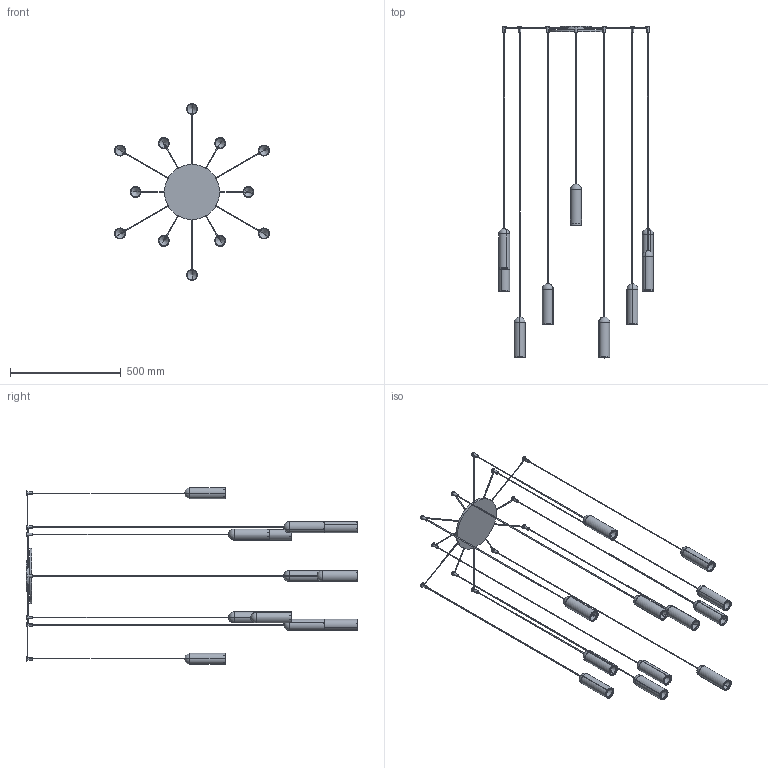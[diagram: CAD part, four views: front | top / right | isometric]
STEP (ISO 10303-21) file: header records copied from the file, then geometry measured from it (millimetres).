
FILE_DESCRIPTION (( 'STEP AP203' ), '1' );
FILE_NAME ('NAN12-00-NANUM 12 ROSONE CENTRALE.STEP', '2024-07-31T07:26:53', ( '' ), ( '' ), 'SwSTEP 2.0', 'SolidWorks 2022', '' );
FILE_SCHEMA (( 'CONFIG_CONTROL_DESIGN' ));
Length unit declared in the file: millimetre
Products named in the file (7): NAN12-00-NANUM 12 ROSONE CENTRALE; NANUM_LAMPADA SINGOLA_H=2100; NANUM_Rosone diam.250_Nanum 12<A macchina>; NANUM_LAMPADA SINGOLA_H=1500; NANUM_LAMPADA SINGOLA_H=1650; NANUM_LAMPADA SINGOLA_H=1800; NANUM_LAMPADA SINGOLA_H=1900
Assembly tree (13 placements, depth 2):
  NAN12-00-NANUM 12 ROSONE CENTRALE
    NANUM_Rosone diam.250_Nanum 12<A macchina>
    NANUM_LAMPADA SINGOLA_H=1900  x2
    NANUM_LAMPADA SINGOLA_H=1500  x3
    NANUM_LAMPADA SINGOLA_H=1800  x2
    NANUM_LAMPADA SINGOLA_H=1650  x3
    NANUM_LAMPADA SINGOLA_H=2100  x2
Bounding box: 699.52 x 1500 x 800 mm (x, y, z)
Volume: 1799093.7 mm3; surface area: 1053755.3 mm2
Topology: 37 solids, 37 shells, 456 faces, 990 edges, 561 vertices
Faces by surface type: cylinder 247, plane 89, cone 48, sphere 48, torus 24
Entity records: 6925 total; most frequent: CARTESIAN_POINT 1384, DIRECTION 1085, ORIENTED_EDGE 852, AXIS2_PLACEMENT_3D 474, EDGE_CURVE 426, VERTEX_POINT 261, EDGE_LOOP 253, FACE_OUTER_BOUND 232
